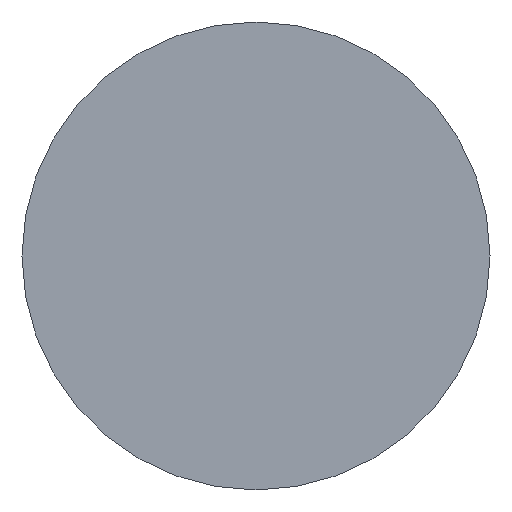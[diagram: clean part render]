
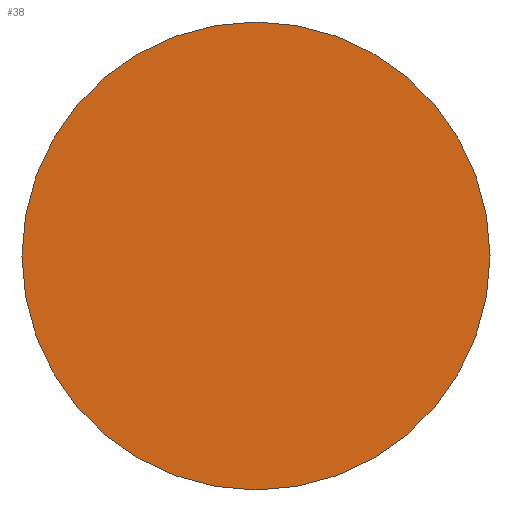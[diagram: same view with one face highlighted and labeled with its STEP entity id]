
A CAD part, top view. The second image highlights one B-rep face of the part: STEP entity #38.
In plain terms, the highlighted planar face has unit normal (0, 0, 1).
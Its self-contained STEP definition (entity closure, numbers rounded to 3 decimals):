
#38=ADVANCED_FACE('',(#80),#81,.T.);
#80=FACE_OUTER_BOUND('',#131,.T.);
#81=PLANE('',#132);
#131=EDGE_LOOP('',(#222));
#132=AXIS2_PLACEMENT_3D('',#223,#224,#225);
#222=ORIENTED_EDGE('',*,*,#289,.F.);
#223=CARTESIAN_POINT('',(-11.75,0.0,0.0));
#224=DIRECTION('',(0.0,0.,1.0));
#225=DIRECTION('',(1.0,0.0,0.0));
#289=EDGE_CURVE('',#316,#316,#317,.T.);
#316=VERTEX_POINT('',#354);
#317=CIRCLE('',#355,23.5);
#354=CARTESIAN_POINT('',(0.0,-23.5,0.));
#355=AXIS2_PLACEMENT_3D('',#391,#392,#393);
#391=CARTESIAN_POINT('',(0.0,0.0,0.0));
#392=DIRECTION('',(0.0,0.,-1.0));
#393=DIRECTION('',(0.0,-1.0,0.));
